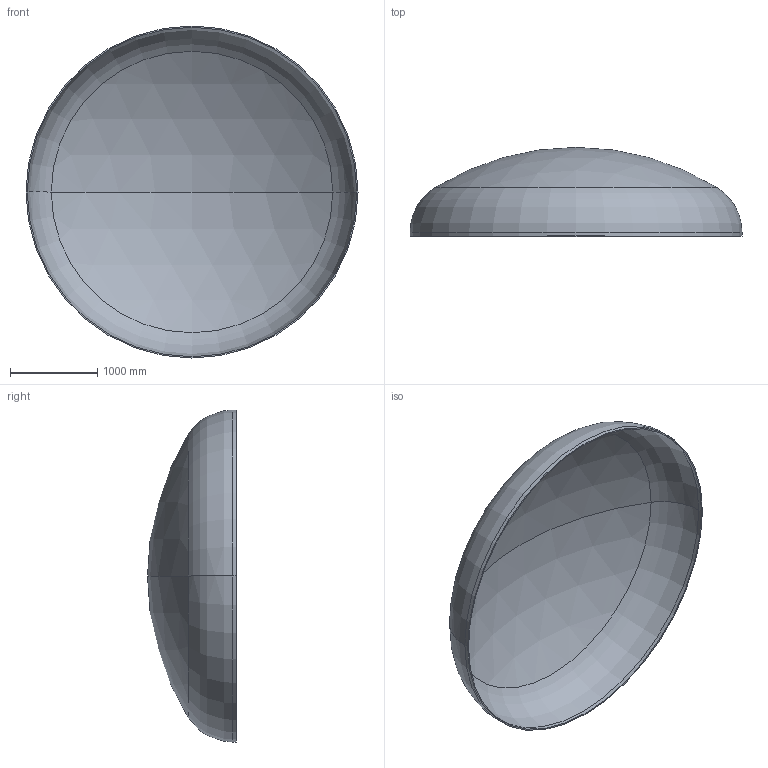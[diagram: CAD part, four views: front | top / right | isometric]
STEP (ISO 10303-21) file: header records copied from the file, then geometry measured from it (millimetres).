
FILE_DESCRIPTION (( 'STEP AP203' ), '1' );
FILE_NAME ('DIN 28013 Korbbogenform_-_Boden DIN 28013 - 3800 x 45 - I - s=14.step', '2016-07-01T21:04:20', ( '' ), ( '' ), 'SwSTEP 2.0', 'SolidWorks 2013', '' );
FILE_SCHEMA (( 'CONFIG_CONTROL_DESIGN' ));
Length unit declared in the file: millimetre
Products named in the file (1): DIN 28013 Korbbogenform_-_Boden DIN 28013 - 3800 x 45 - I - s=14
Bounding box: 3800 x 1017.07 x 3800 mm (x, y, z)
Volume: 226325311.2 mm3; surface area: 32499101.8 mm2
Topology: 1 solids, 1 shells, 13 faces, 24 edges, 14 vertices
Faces by surface type: torus 4, cylinder 4, sphere 4, plane 1
Entity records: 407 total; most frequent: DIRECTION 72, CARTESIAN_POINT 52, ORIENTED_EDGE 48, AXIS2_PLACEMENT_3D 34, EDGE_CURVE 24, CIRCLE 20, VERTEX_POINT 14, EDGE_LOOP 14
